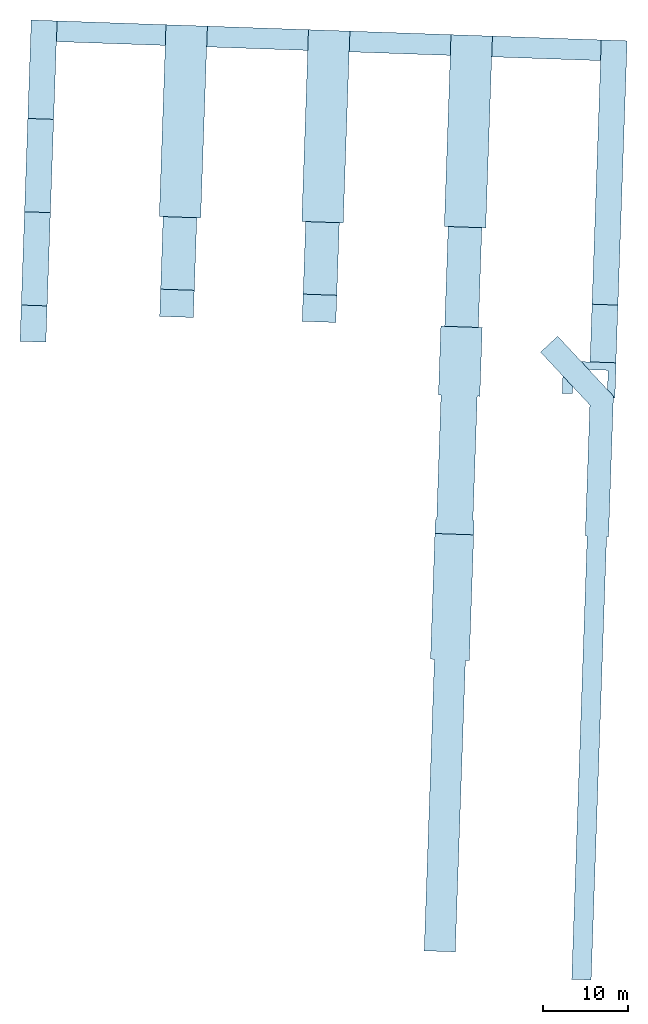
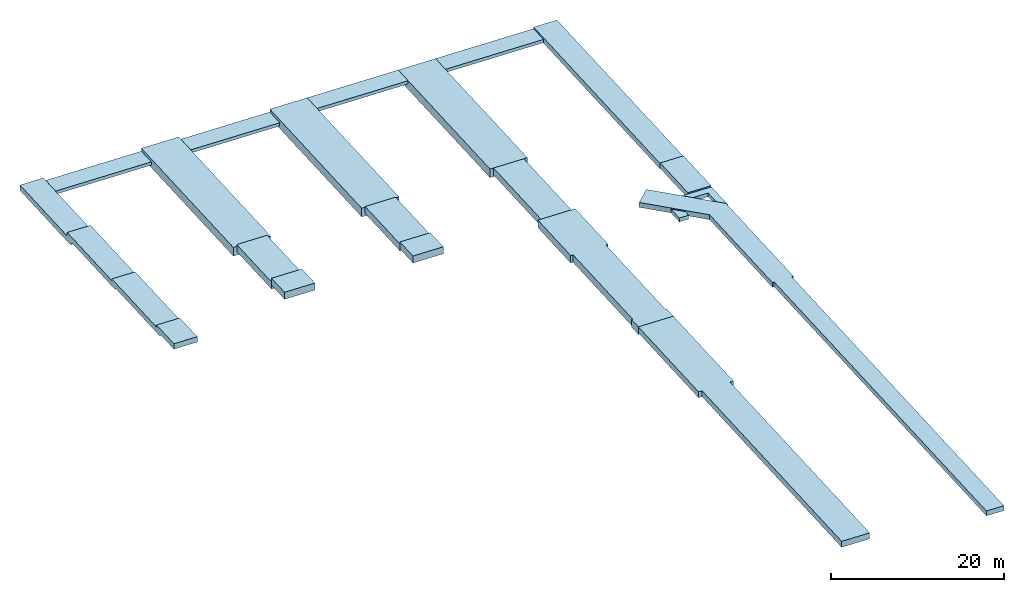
# One storey: 17 footings.
"""IFC2X3 building model written with IfcOpenShell, lengths in feet."""

import ifcopenshell
import ifcopenshell.guid

model = None  # the IFC model being written
_history = None  # IfcOwnerHistory: only IFC2X3 demands one
_inside = {}  # id of a spatial element -> (the spatial element, [elements in it])
_under = {}  # id of a project, library or spatial element -> (it, [spatial elements below it])
_declared = {}  # id of a project -> (the project, [libraries it declares])
_typed = {}  # id of a type object -> (the type object, [elements of that type])
_made_of = {}  # id of a material, layer set ... -> (it, [elements and type objects made of it])


def new_model(schema):
    """Start an empty IFC model of exactly this schema.

    Asked for "IFC4X3", IfcOpenShell would pick the latest addendum, in which some entities
    have other attributes; the version numbers below select the first issue.
    IFC2X3 requires an IfcOwnerHistory on every rooted entity: one is made here for all.
    """
    global model, _history
    if schema == "IFC4X3":
        model = ifcopenshell.file(schema_version=(4, 3, 0, 0))
    else:
        model = ifcopenshell.file(schema=schema)
    _inside.clear()
    _under.clear()
    _declared.clear()
    _typed.clear()
    _made_of.clear()
    _history = None
    if model.schema == "IFC2X3":
        org = make("IfcOrganization", Name="unknown")
        user = make(
            "IfcPersonAndOrganization",
            ThePerson=make("IfcPerson", FamilyName="unknown"),
            TheOrganization=org,
        )
        app = make(
            "IfcApplication",
            ApplicationDeveloper=org,
            Version="unknown",
            ApplicationFullName="unknown",
            ApplicationIdentifier="unknown",
        )
        _history = make(
            "IfcOwnerHistory",
            OwningUser=user,
            OwningApplication=app,
            ChangeAction="ADDED",
            CreationDate=0,
        )
    return model


def make(cls, **values):
    """One entity of the class cls with the attributes given. An attribute that is None is left unset."""
    return model.create_entity(
        cls, **{name: value for name, value in values.items() if value is not None}
    )


def entity(cls, *values):
    """Any entity or typed value of the class cls, its attributes in the order of the schema. None: left unset."""
    e = model.create_entity(cls)
    for i, value in enumerate(values):
        if value is not None:
            e[i] = value
    return e


def rooted(cls, **values):
    """An entity with a GlobalId (a new one), such as an element, a storey or a relation."""
    return make(cls, GlobalId=ifcopenshell.guid.new(), OwnerHistory=_history, **values)


def si_unit(unit_type, name, prefix=None):
    """IfcSIUnit, for example si_unit("LENGTHUNIT", "METRE", prefix="MILLI")."""
    return make("IfcSIUnit", UnitType=unit_type, Prefix=prefix, Name=name)


def converted_unit(unit_type, name, factor, base, dimensions=None, offset=None):
    """IfcConversionBasedUnit, such as the inch: factor (a typed value) times the base unit."""
    return make(
        "IfcConversionBasedUnit"
        if offset is None
        else "IfcConversionBasedUnitWithOffset",
        ConversionOffset=offset,
        Dimensions=None
        if dimensions is None
        else entity("IfcDimensionalExponents", *dimensions),
        UnitType=unit_type,
        Name=name,
        ConversionFactor=make(
            "IfcMeasureWithUnit", ValueComponent=factor, UnitComponent=base
        ),
    )


def derived_unit(unit_type, elements):
    """IfcDerivedUnit: a product of units, each with its exponent."""
    return make(
        "IfcDerivedUnit",
        Elements=[
            make("IfcDerivedUnitElement", Unit=unit, Exponent=power)
            for unit, power in elements
        ],
        UnitType=unit_type,
    )


def assignment(units):
    """IfcUnitAssignment: the units of a project."""
    return None if units is None else make("IfcUnitAssignment", Units=units)


def point(xyz):
    """IfcCartesianPoint."""
    return None if xyz is None else make("IfcCartesianPoint", Coordinates=xyz)


def direction(xyz):
    """IfcDirection."""
    return None if xyz is None else make("IfcDirection", DirectionRatios=xyz)


def frame(location, z_axis=None, x_axis=None):
    """IfcAxis2Placement3D, a coordinate frame: its origin and axes. An axis left out is left unset."""
    return make(
        "IfcAxis2Placement3D",
        Location=point(location),
        Axis=direction(z_axis),
        RefDirection=direction(x_axis),
    )


def frame_2d(location, x_axis=None):
    """IfcAxis2Placement2D, a coordinate frame in the plane: its origin and x axis."""
    return make(
        "IfcAxis2Placement2D", Location=point(location), RefDirection=direction(x_axis)
    )


def origin():
    """The frame at (0, 0, 0) with its axes left unset."""
    return frame((0.0, 0.0, 0.0))


def origin_2d_with_axis():
    """The frame at (0, 0) in the plane with the x axis (1, 0) written out."""
    return frame_2d((0.0, 0.0), x_axis=(1.0, 0.0))


def place(relative_to, where):
    """IfcLocalPlacement: puts the frame where relative to a parent placement (None: the world)."""
    return make(
        "IfcLocalPlacement", PlacementRelTo=relative_to, RelativePlacement=where
    )


def context(
    kind, dimensions, precision=None, world=None, true_north=None, identifier=None
):
    """IfcGeometricRepresentationContext, for example the 3D "Model" context."""
    return make(
        "IfcGeometricRepresentationContext",
        ContextIdentifier=identifier,
        ContextType=kind,
        CoordinateSpaceDimension=dimensions,
        Precision=precision,
        WorldCoordinateSystem=world,
        TrueNorth=true_north,
    )


def subcontext(parent, identifier, kind, view, scale=None):
    """IfcGeometricRepresentationSubContext, for example "Body" below "Model"."""
    return make(
        "IfcGeometricRepresentationSubContext",
        ContextIdentifier=identifier,
        ContextType=kind,
        ParentContext=parent,
        TargetScale=scale,
        TargetView=view,
    )


def project(units=None, contexts=None):
    """IfcProject with its units and contexts."""
    return rooted(
        "IfcProject",
        Name="project",
        RepresentationContexts=contexts,
        UnitsInContext=assignment(units),
    )


def spatial(cls, under=None, at=None, **own):
    """A site, building, storey or space (cls), placed at a placement, below another one or the project."""
    s = rooted(cls, ObjectPlacement=at, **own)
    if under is not None:
        _under.setdefault(under.id(), (under, []))[1].append(s)
    return s


def polyline(points):
    """IfcPolyline through the points."""
    return make("IfcPolyline", Points=[point(p) for p in points])


def profile(cls, at=None, kind="AREA", **sizes):
    """A parametric profile (cls). Its sizes go by their IFC names, for example OverallWidth=200.0."""
    return make(cls, ProfileType=kind, Position=at, **sizes)


def rectangle(**sizes):
    """IfcRectangleProfileDef."""
    return profile("IfcRectangleProfileDef", **sizes)


def outline(outer, holes=None, kind="AREA"):
    """IfcArbitraryClosedProfileDef: a profile drawn as a closed curve; with holes, ...WithVoids."""
    if holes is None:
        return make("IfcArbitraryClosedProfileDef", ProfileType=kind, OuterCurve=outer)
    return make(
        "IfcArbitraryProfileDefWithVoids",
        ProfileType=kind,
        OuterCurve=outer,
        InnerCurves=holes,
    )


def extrude(swept, where, along, depth):
    """IfcExtrudedAreaSolid: the profile swept, set in the frame where, extruded along a direction by depth."""
    return make(
        "IfcExtrudedAreaSolid",
        SweptArea=swept,
        Position=where,
        ExtrudedDirection=direction(along),
        Depth=depth,
    )


def shape(context_of_items, identifier, shape_type, items):
    """IfcShapeRepresentation: the items that make up one representation, for example the "Body"."""
    return make(
        "IfcShapeRepresentation",
        ContextOfItems=context_of_items,
        RepresentationIdentifier=identifier,
        RepresentationType=shape_type,
        Items=items,
    )


def material(Name=None, Category=None):
    """IfcMaterial."""
    return make("IfcMaterial", Name=Name, Category=Category)


def made_of(thing, what):
    """Note that an element or type object is made of a material, layer set ...; save() writes the relation."""
    if what is not None:
        _made_of.setdefault(what.id(), (what, []))[1].append(thing)
    return thing


def element(
    cls,
    number,
    at=None,
    inside=None,
    cuts=None,
    type_object=None,
    material=None,
    context=None,
    identifier="Body",
    shape_type=None,
    held_by="IfcProductDefinitionShape",
    body=None,
    shapes=None,
    **own,
):
    """One element of the class cls, such as IfcWall. Its Tag is "e" and its number.

    at: its placement. inside: the storey or other place that contains it. cuts: it is an
    opening in that element (IfcRelVoidsElement). A single representation is given by context,
    identifier, shape_type and body (its items); several are given by shapes. held_by: the class
    of the entity that holds the representations. save() writes the other relations.
    """
    e = rooted(cls, Tag="e%d" % number, ObjectPlacement=at, **own)
    if body is not None:
        shapes = [shape(context, identifier, shape_type, body)]
    if shapes is not None:
        e.Representation = make(held_by, Representations=shapes)
    if inside is not None:
        _inside.setdefault(inside.id(), (inside, []))[1].append(e)
    if cuts is not None:
        rooted(
            "IfcRelVoidsElement", RelatingBuildingElement=cuts, RelatedOpeningElement=e
        )
    if type_object is not None:
        _typed.setdefault(type_object.id(), (type_object, []))[1].append(e)
    return made_of(e, material)


def aggregate(whole, parts):
    """IfcRelAggregates: a whole, such as a stair, and the parts it consists of."""
    return rooted("IfcRelAggregates", RelatingObject=whole, RelatedObjects=parts)


def save(model, path):
    """Write the relations noted so far, then the file.

    IfcRelAggregates (storeys below a building ...), IfcRelContainedInSpatialStructure (elements
    in a storey), IfcRelDefinesByType, IfcRelAssociatesMaterial and IfcRelDeclares: one each for
    every whole, place, type object, material and project.
    """
    for whole, parts in _under.values():
        aggregate(whole, parts)
    for where, things in _inside.values():
        rooted(
            "IfcRelContainedInSpatialStructure",
            RelatedElements=things,
            RelatingStructure=where,
        )
    for kind, things in _typed.values():
        rooted("IfcRelDefinesByType", RelatedObjects=things, RelatingType=kind)
    for what, things in _made_of.values():
        rooted("IfcRelAssociatesMaterial", RelatedObjects=things, RelatingMaterial=what)
    for by, libraries in _declared.values():
        rooted("IfcRelDeclares", RelatingContext=by, RelatedDefinitions=libraries)
    model.write(path)


model = new_model("IFC2X3")

# Units and contexts
model_context = context("Model", 3, precision=0.0001, world=origin(), true_north=direction((0.999390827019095, 0.0348994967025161)))
body_context = subcontext(model_context, "Body", "Model", "MODEL_VIEW")
ifc_project = project(units=[converted_unit("LENGTHUNIT", "FOOT", entity("IfcRatioMeasure", 0.3048), si_unit("LENGTHUNIT", "METRE"), dimensions=[1, 0, 0, 0, 0, 0, 0]), converted_unit("AREAUNIT", "SQUARE FOOT", entity("IfcRatioMeasure", 0.09290304), si_unit("AREAUNIT", "SQUARE_METRE"), dimensions=[2, 0, 0, 0, 0, 0, 0]), converted_unit("VOLUMEUNIT", "CUBIC FOOT", entity("IfcRatioMeasure", 0.028316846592), si_unit("VOLUMEUNIT", "CUBIC_METRE"), dimensions=[3, 0, 0, 0, 0, 0, 0]), converted_unit("PLANEANGLEUNIT", "DEGREE", entity("IfcRatioMeasure", 0.0174532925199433), si_unit("PLANEANGLEUNIT", "RADIAN"), dimensions=[0, 0, 0, 0, 0, 0, 0]), si_unit("MASSUNIT", "GRAM", prefix="KILO"), si_unit("TIMEUNIT", "SECOND"), si_unit("FREQUENCYUNIT", "HERTZ"), si_unit("THERMODYNAMICTEMPERATUREUNIT", "DEGREE_CELSIUS"), derived_unit("THERMALTRANSMITTANCEUNIT", [(si_unit("MASSUNIT", "GRAM", prefix="KILO"), 1), (si_unit("THERMODYNAMICTEMPERATUREUNIT", "KELVIN"), -1), (si_unit("TIMEUNIT", "SECOND"), -3)]), derived_unit("VOLUMETRICFLOWRATEUNIT", [(si_unit("LENGTHUNIT", "METRE"), 3), (si_unit("TIMEUNIT", "SECOND"), -1)]), si_unit("ELECTRICCURRENTUNIT", "AMPERE"), si_unit("ELECTRICVOLTAGEUNIT", "VOLT"), si_unit("POWERUNIT", "WATT"), si_unit("FORCEUNIT", "NEWTON"), si_unit("ILLUMINANCEUNIT", "LUX"), si_unit("LUMINOUSFLUXUNIT", "LUMEN"), si_unit("LUMINOUSINTENSITYUNIT", "CANDELA"), derived_unit("USERDEFINED", [(si_unit("MASSUNIT", "GRAM", prefix="KILO"), -1), (si_unit("LENGTHUNIT", "METRE"), -2), (si_unit("TIMEUNIT", "SECOND"), 3), (si_unit("LUMINOUSFLUXUNIT", "LUMEN"), 1)]), derived_unit("LINEARVELOCITYUNIT", [(si_unit("LENGTHUNIT", "METRE"), 1), (si_unit("TIMEUNIT", "SECOND"), -1)]), si_unit("PRESSUREUNIT", "PASCAL"), derived_unit("USERDEFINED", [(si_unit("LENGTHUNIT", "METRE"), -2), (si_unit("MASSUNIT", "GRAM", prefix="KILO"), 1), (si_unit("TIMEUNIT", "SECOND"), -2)])], contexts=[model_context])

# Site, building, storey
site_placement = place(None, frame((892.518771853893, 322.38689265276, 0.00393700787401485), z_axis=(0.0, 0.0, 1.0), x_axis=(0.0348994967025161, 0.999390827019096, 0.0)))
site = spatial("IfcSite", under=ifc_project, at=site_placement, Name="Default", CompositionType="ELEMENT")
building_placement = place(site_placement, origin())
building = spatial("IfcBuilding", under=site, at=building_placement, CompositionType="ELEMENT")
storey_placement = place(building_placement, frame((0.0, 0.0, 535.0)))
storey = spatial("IfcBuildingStorey", under=building, at=storey_placement, Name="Potential Ground Water Elevation", CompositionType="ELEMENT", Elevation=535.0)

# Footings
ifc_material = material(Name="Concrete - Cast-in-Place Concrete")
footing_1_placement = place(storey_placement, origin())
element("IfcFooting", 1, at=footing_1_placement, inside=storey, material=ifc_material, Name="G4-G18 Column Grade Beam:G4-G18 Column Grade Beam", ObjectType="G4-G18 Column Grade Beam:G4-G18 Column Grade Beam", PredefinedType="NOTDEFINED", context=body_context, shape_type="SweptSolid", body=[
    extrude(outline(polyline([(0.452081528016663, -162.002098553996), (7.95208152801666, -162.002098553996), (7.9520815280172, 8.99790144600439), (8.7020815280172, 8.99790144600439), (8.70208152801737, 63.3619050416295), (-13.6263455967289, 85.6903321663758), (-19.9903066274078, 79.3263711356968), (-0.297918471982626, 59.6339829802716), (-0.297918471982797, 8.99790144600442), (0.452081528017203, 8.99790144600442), (0.452081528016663, -162.002098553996)])), frame((26.4293527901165, 240.96603500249, 5.75), z_axis=(0.0, 0.0, 1.0), x_axis=(0.0, -1.0, 0.0)), (0.0, 0.0, 1.0), 2.25),
])
footing_2_placement = place(storey_placement, origin())
element("IfcFooting", 2, at=footing_2_placement, inside=storey, material=ifc_material, Name="SE Stair Footing:SE Stair Footing", ObjectType="SE Stair Footing:SE Stair Footing", PredefinedType="NOTDEFINED", context=body_context, shape_type="SweptSolid", body=[
    extrude(outline(polyline([(-6.48421942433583, -3.88296807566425), (7.04703057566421, -3.88296807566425), (7.04703057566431, 9.56557089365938), (4.04703057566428, 6.56557089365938), (4.04703057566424, -0.882968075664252), (-3.40150839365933, -0.882968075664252), (-5.81817506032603, -3.29963474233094), (-6.48421942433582, -3.29963474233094), (-6.48421942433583, -3.88296807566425)])), frame((95.609432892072, 235.563588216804, 5.75)), (0.0, 0.0, 1.0), 1.75),
    extrude(outline(polyline([(-2.0, -2.35409237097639), (2.0, -2.35409237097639), (2.0, 0.354092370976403), (-2.0, 4.35409237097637), (-2.0, -2.35409237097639)])), frame((92.5105558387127, 250.065265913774, 5.75), z_axis=(0.0, 0.0, 1.0), x_axis=(0.0, -1.0, 0.0)), (0.0, 0.0, 1.0), 1.75),
])
footing_3_placement = place(storey_placement, origin())
element("IfcFooting", 3, at=footing_3_placement, inside=storey, material=ifc_material, Name="E14-18 Grade Beam:E14-18 Grade Beam", ObjectType="E14-18 Grade Beam:E14-18 Grade Beam", PredefinedType="NOTDEFINED", context=body_context, shape_type="SweptSolid", body=[
    extrude(outline(polyline([(-7.50000000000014, -33.0000212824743), (7.49999999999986, -33.0000212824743), (7.49999999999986, -27.5000212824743), (7.0, -27.5000212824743), (7.0, 20.5000212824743), (8.0, 20.5000212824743), (8.0, 47.0000212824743), (-8.0, 47.0000212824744), (-8.0, 20.5000212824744), (-7.0, 20.5000212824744), (-7.0, -27.5000212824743), (-7.50000000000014, -27.5000212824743), (-7.50000000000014, -33.0000212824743)])), frame((67.4272755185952, 291.763953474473, 3.75), z_axis=(0.0, 0.0, 1.0), x_axis=(0.0, -1.0, 0.0)), (0.0, 0.0, 1.0), 3.5),
])
footing_4_placement = place(storey_placement, origin())
element("IfcFooting", 4, at=footing_4_placement, inside=storey, material=ifc_material, Name="E5-14 Grade Beam:E5-14 Grade Beam", ObjectType="E5-14 Grade Beam:E5-14 Grade Beam", PredefinedType="NOTDEFINED", context=body_context, shape_type="SweptSolid", body=[
    extrude(outline(polyline([(-7.49999999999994, -16.0), (-7.49999999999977, -64.5), (7.50000000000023, -64.4999999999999), (7.50000000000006, -16.0), (6.0, -16.0), (6.0, 96.5), (-6.0, 96.5), (-6.0, -16.0), (-7.49999999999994, -16.0)])), frame((-30.0727457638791, 291.763953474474, 4.5), z_axis=(0.0, 0.0, -1.0), x_axis=(0.0, -1.0, 0.0)), (0.0, 0.0, -1.0), 2.75),
])
footing_5_placement = place(storey_placement, origin())
element("IfcFooting", 5, at=footing_5_placement, inside=storey, material=ifc_material, Name="E19-E22 Grade Beam:E19-E22 Grade Beam", ObjectType="E19-E22 Grade Beam:E19-E22 Grade Beam", PredefinedType="NOTDEFINED", context=body_context, shape_type="SweptSolid", body=[
    extrude(rectangle(XDim=38.5, YDim=13.0, at=frame_2d((1.4210854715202e-14, 0.0), x_axis=(1.0, 0.0))), frame((133.67729680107, 291.763953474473, 3.75), z_axis=(0.0, 0.0, 1.0), x_axis=(-1.0, 0.0, 0.0)), (0.0, 0.0, 1.0), 3.25),
])
footing_6_placement = place(storey_placement, origin())
element("IfcFooting", 6, at=footing_6_placement, inside=storey, material=ifc_material, Name="E22-E26 Grade Beam:E22-E26 Grade Beam", ObjectType="E22-E26 Grade Beam:E22-E26 Grade Beam", PredefinedType="NOTDEFINED", context=body_context, shape_type="SweptSolid", body=[
    extrude(rectangle(XDim=16.0000000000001, YDim=74.0, at=frame_2d((-2.8421709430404e-14, -2.8421709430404e-14), x_axis=(1.0, 0.0))), frame((189.92729680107, 291.763953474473, 3.0), z_axis=(0.0, 0.0, 1.0), x_axis=(0.0, -1.0, 0.0)), (0.0, 0.0, 1.0), 4.0),
])
footing_7_placement = place(storey_placement, origin())
element("IfcFooting", 7, at=footing_7_placement, inside=storey, material=ifc_material, Name="G19-20 Grade Beam:G19-20 Grade Beam", ObjectType="G19-20 Grade Beam:G19-20 Grade Beam", PredefinedType="NOTDEFINED", context=body_context, shape_type="SweptSolid", body=[
    extrude(rectangle(XDim=10.0, YDim=22.2708296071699, at=frame_2d((-1.4210854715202e-14, -7.105427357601e-15), x_axis=(1.0, 0.0))), frame((113.791878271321, 236.763953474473, 5.58000000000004), z_axis=(0.0, 0.0, 1.0), x_axis=(0.0, 1.0, 0.0)), (0.0, 0.0, 1.0), 2.5),
])
footing_8_placement = place(storey_placement, origin())
element("IfcFooting", 8, at=footing_8_placement, inside=storey, material=ifc_material, Name="G21-26 Grade Beam:G21-26 Grade Beam", ObjectType="G21-26 Grade Beam:G21-26 Grade Beam", PredefinedType="NOTDEFINED", context=body_context, shape_type="SweptSolid", body=[
    extrude(rectangle(XDim=102.000003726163, YDim=10.0, at=origin_2d_with_axis()), frame((175.927294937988, 236.763953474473, 5.23000000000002), z_axis=(0.0, 0.0, 1.0), x_axis=(-1.0, 0.0, 0.0)), (0.0, 0.0, 1.0), 2.5),
])
footing_9_placement = place(storey_placement, origin())
element("IfcFooting", 9, at=footing_9_placement, inside=storey, material=ifc_material, Name="G26 GG-GD Grade Beam:G26 GG-GD Grade Beam", ObjectType="G26 GG-GD Grade Beam:G26 GG-GD Grade Beam", PredefinedType="NOTDEFINED", context=body_context, shape_type="SweptSolid", body=[
    extrude(rectangle(XDim=8.0, YDim=39.0000000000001, at=frame_2d((0.0, -2.8421709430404e-14), x_axis=(1.0, 0.0))), frame((222.92729680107, 319.263953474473, 5.5), z_axis=(0.0, 0.0, 1.0), x_axis=(-1.0, 0.0, 0.0)), (0.0, 0.0, 1.0), 1.5),
    extrude(rectangle(XDim=8.0, YDim=42.0000000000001, at=frame_2d((0.0, 2.8421709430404e-14), x_axis=(1.0, 0.0))), frame((222.92729680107, 262.763953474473, 5.5), z_axis=(0.0, 0.0, 1.0), x_axis=(-1.0, 0.0, 0.0)), (0.0, 0.0, 1.0), 1.5),
])
footing_10_placement = place(storey_placement, origin())
element("IfcFooting", 10, at=footing_10_placement, inside=storey, material=ifc_material, Name="E19-E22 Grade Beam1:E19-E22 Grade Beam", ObjectType="E19-E22 Grade Beam1:E19-E22 Grade Beam", PredefinedType="NOTDEFINED", context=body_context, shape_type="SweptSolid", body=[
    extrude(rectangle(XDim=28.0000037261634, YDim=13.0, at=frame_2d((1.4210854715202e-14, -2.8421709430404e-14), x_axis=(1.0, 0.0))), frame((138.927294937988, 346.763953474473, 4.08000000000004), z_axis=(0.0, 0.0, 1.0), x_axis=(-1.0, 0.0, 0.0)), (0.0, 0.0, 1.0), 3.25),
])
footing_11_placement = place(storey_placement, origin())
element("IfcFooting", 11, at=footing_11_placement, inside=storey, material=ifc_material, Name="E22-E26 Grade Beam1:E22-E26 Grade Beam", ObjectType="E22-E26 Grade Beam1:E22-E26 Grade Beam", PredefinedType="NOTDEFINED", context=body_context, shape_type="SweptSolid", body=[
    extrude(rectangle(XDim=16.0000000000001, YDim=74.0, at=frame_2d((-2.8421709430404e-14, -2.8421709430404e-14), x_axis=(1.0, 0.0))), frame((189.92729680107, 346.763953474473, 3.0), z_axis=(0.0, 0.0, 1.0), x_axis=(0.0, -1.0, 0.0)), (0.0, 0.0, 1.0), 4.0),
])
footing_12_placement = place(storey_placement, origin())
element("IfcFooting", 12, at=footing_12_placement, inside=storey, material=ifc_material, Name="E19-E22 Grade Beam2:E19-E22 Grade Beam", ObjectType="E19-E22 Grade Beam2:E19-E22 Grade Beam", PredefinedType="NOTDEFINED", context=body_context, shape_type="SweptSolid", body=[
    extrude(rectangle(XDim=10.4999962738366, YDim=13.0, at=frame_2d((1.4210854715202e-14, 2.8421709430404e-14), x_axis=(1.0, 0.0))), frame((119.677294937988, 346.763953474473, 5.0), z_axis=(0.0, 0.0, 1.0), x_axis=(-1.0, 0.0, 0.0)), (0.0, 0.0, 1.0), 3.25),
])
footing_13_placement = place(storey_placement, origin())
element("IfcFooting", 13, at=footing_13_placement, inside=storey, material=ifc_material, Name="E19-E22 Grade Beam3:E19-E22 Grade Beam", ObjectType="E19-E22 Grade Beam3:E19-E22 Grade Beam", PredefinedType="NOTDEFINED", context=body_context, shape_type="SweptSolid", body=[
    extrude(rectangle(XDim=28.0000037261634, YDim=13.0, at=frame_2d((1.4210854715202e-14, -2.8421709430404e-14), x_axis=(1.0, 0.0))), frame((138.927294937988, 401.76395347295, 4.58000000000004), z_axis=(0.0, 0.0, 1.0), x_axis=(-1.0, 0.0, 0.0)), (0.0, 0.0, 1.0), 3.25),
])
footing_14_placement = place(storey_placement, origin())
element("IfcFooting", 14, at=footing_14_placement, inside=storey, material=ifc_material, Name="E22-E26 Grade Beam2:E22-E26 Grade Beam", ObjectType="E22-E26 Grade Beam2:E22-E26 Grade Beam", PredefinedType="NOTDEFINED", context=body_context, shape_type="SweptSolid", body=[
    extrude(rectangle(XDim=16.0000000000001, YDim=74.0, at=frame_2d((-2.8421709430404e-14, -2.8421709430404e-14), x_axis=(1.0, 0.0))), frame((189.92729680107, 401.76395347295, 3.0), z_axis=(0.0, 0.0, 1.0), x_axis=(0.0, -1.0, 0.0)), (0.0, 0.0, 1.0), 4.0),
])
footing_15_placement = place(storey_placement, origin())
element("IfcFooting", 15, at=footing_15_placement, inside=storey, material=ifc_material, Name="E19-E22 Grade Beam4:E19-E22 Grade Beam", ObjectType="E19-E22 Grade Beam4:E19-E22 Grade Beam", PredefinedType="NOTDEFINED", context=body_context, shape_type="SweptSolid", body=[
    extrude(rectangle(XDim=10.4999962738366, YDim=13.0, at=frame_2d((0.0, -2.8421709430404e-14), x_axis=(1.0, 0.0))), frame((119.677294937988, 401.76395347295, 6.33000000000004), z_axis=(0.0, 0.0, 1.0), x_axis=(-1.0, 0.0, 0.0)), (0.0, 0.0, 1.0), 3.25),
])
footing_16_placement = place(storey_placement, origin())
element("IfcFooting", 16, at=footing_16_placement, inside=storey, material=ifc_material, Name="G26 GG-GD Grade Beam1:G26 GG-GD Grade Beam", ObjectType="G26 GG-GD Grade Beam1:G26 GG-GD Grade Beam", PredefinedType="NOTDEFINED", context=body_context, shape_type="SweptSolid", body=[
    extrude(rectangle(XDim=8.0, YDim=42.0000000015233, at=frame_2d((0.0, 2.8421709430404e-14), x_axis=(1.0, 0.0))), frame((222.92729680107, 430.763953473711, 4.16999999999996), z_axis=(0.0, 0.0, 1.0), x_axis=(-1.0, 0.0, 0.0)), (0.0, 0.0, 1.0), 1.5),
    extrude(rectangle(XDim=8.0, YDim=38.9999999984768, at=frame_2d((-2.8421709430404e-14, 0.0), x_axis=(1.0, 0.0))), frame((222.92729680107, 374.263953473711, 4.16999999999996), z_axis=(0.0, 0.0, 1.0), x_axis=(-1.0, 0.0, 0.0)), (0.0, 0.0, 1.0), 1.5),
])
footing_17_placement = place(storey_placement, origin())
element("IfcFooting", 17, at=footing_17_placement, inside=storey, material=ifc_material, Name="GA G19-26 Grade Beam:GA G19-26 Grade Beam", ObjectType="GA G19-26 Grade Beam:GA G19-26 Grade Beam", PredefinedType="NOTDEFINED", context=body_context, shape_type="SweptSolid", body=[
    extrude(outline(polyline([(0.602500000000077, -72.14812499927), (3.10250000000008, -72.14812499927), (3.10249999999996, -31.6481250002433), (1.48250000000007, -30.0281250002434), (1.48250000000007, 4.35187499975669), (0.682500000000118, 5.15187499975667), (0.682500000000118, 40.3518749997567), (-0.267499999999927, 41.3018749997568), (-0.267499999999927, 51.85187500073), (-2.76749999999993, 51.85187500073), (-2.76749999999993, 37.8518749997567), (-1.81749999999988, 37.8518749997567), (-1.81749999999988, 1.85187499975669), (-1.01749999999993, 1.85187499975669), (-1.01749999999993, -34.1481250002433), (0.602500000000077, -34.1481250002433), (0.602500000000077, -72.14812499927)])), frame((154.779168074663, 451.763953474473, 7.73250000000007), z_axis=(0.0, 1.0, 0.0), x_axis=(0.0, 0.0, -1.0)), (0.0, 0.0, 1.0), 9.99999999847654),
])

save(model, "model.ifc")
